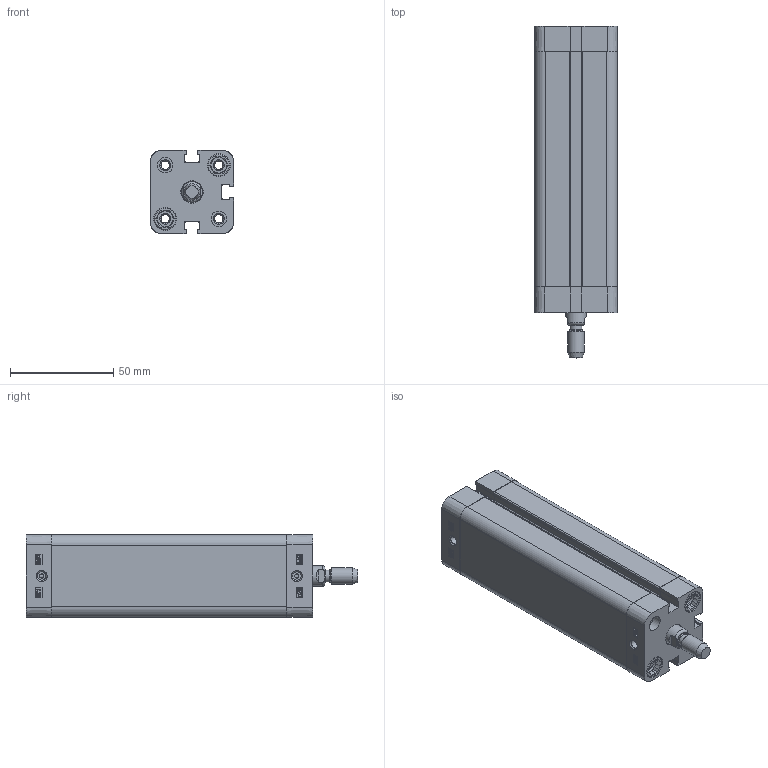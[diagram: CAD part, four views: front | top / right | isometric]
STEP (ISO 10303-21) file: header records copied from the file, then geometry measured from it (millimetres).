
FILE_DESCRIPTION((''),'2;1');
FILE_NAME('T:\Archivio Inventor\- CATALOGHI 2012\SERIE P - NUOVA\PDM\PDM025\PDM025.---.GS.M\PDM025.100.GS.M.stp','2013-01-31T08:08:52',('Administrator'),(''),'Autodesk Inventor 2012','Autodesk Inventor 2012','');
FILE_SCHEMA(('CONFIG_CONTROL_DESIGN'));
Length unit declared in the file: millimetre
Products named in the file (1): PDM025.100.GS.M
Bounding box: 40.3 x 161 x 40.3 mm (x, y, z)
Volume: 112797.2 mm3; surface area: 58215.3 mm2
Topology: 1 solids, 3 shells, 596 faces, 1552 edges, 1017 vertices
Faces by surface type: plane 312, cylinder 130, bspline 92, cone 50, torus 12
Full cylindrical faces by diameter (mm): 2 x2, 4.134 x10, 5.8 x1, 7.5 x4, 7.55 x2, 8 x9, 9 x1, 10 x1, 10.5 x1, 10.8 x4, 11.1 x4, 25 x1, 27.3 x1, 27.5 x1
Entity records: 18782 total; most frequent: CARTESIAN_POINT 4306, ORIENTED_EDGE 2888, DIRECTION 2606, EDGE_CURVE 1444, VERTEX_POINT 1002, VECTOR 898, LINE 898, AXIS2_PLACEMENT_3D 854
